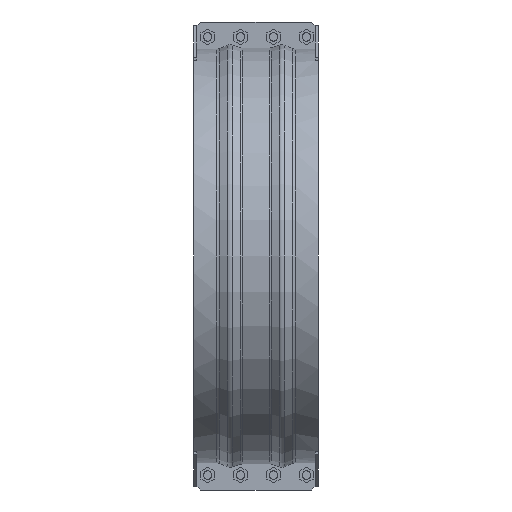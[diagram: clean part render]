
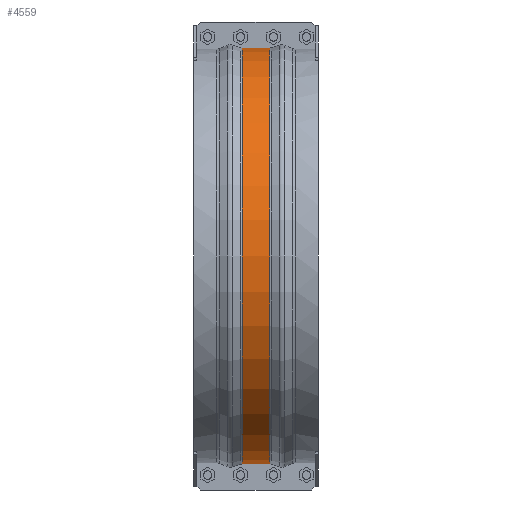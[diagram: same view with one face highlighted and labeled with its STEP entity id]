
A CAD part, front view. The second image highlights one B-rep face of the part: STEP entity #4559.
In plain terms, the highlighted cylindrical face has radius 625.777 mm (diameter 1251.55 mm), a partial arc.
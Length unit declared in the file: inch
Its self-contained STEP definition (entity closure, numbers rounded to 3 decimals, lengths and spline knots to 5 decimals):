
#414=FACE_OUTER_BOUND('',#671,.T.);
#671=EDGE_LOOP('',(#3465,#3466,#3467,#3468));
#1036=LINE('',#7017,#1485);
#1044=LINE('',#7149,#1493);
#1485=VECTOR('',#5630,0.3937);
#1493=VECTOR('',#5690,0.3937);
#1771=CIRCLE('',#4875,24.63689);
#1773=CIRCLE('',#4879,24.63689);
#2060=VERTEX_POINT('',#7009);
#2061=VERTEX_POINT('',#7016);
#2076=VERTEX_POINT('',#7134);
#2078=VERTEX_POINT('',#7147);
#2565=EDGE_CURVE('',#2061,#2060,#1036,.T.);
#2590=EDGE_CURVE('',#2076,#2061,#1771,.T.);
#2594=EDGE_CURVE('',#2078,#2060,#1773,.T.);
#2595=EDGE_CURVE('',#2078,#2076,#1044,.T.);
#3465=ORIENTED_EDGE('',*,*,#2565,.T.);
#3466=ORIENTED_EDGE('',*,*,#2594,.F.);
#3467=ORIENTED_EDGE('',*,*,#2595,.T.);
#3468=ORIENTED_EDGE('',*,*,#2590,.T.);
#4182=CYLINDRICAL_SURFACE('',#4878,24.63689);
#4559=ADVANCED_FACE('',(#414),#4182,.T.);
#4875=AXIS2_PLACEMENT_3D('',#7135,#5679,#5680);
#4878=AXIS2_PLACEMENT_3D('',#7146,#5686,#5687);
#4879=AXIS2_PLACEMENT_3D('',#7148,#5688,#5689);
#5630=DIRECTION('',(1.,0.,0.));
#5679=DIRECTION('center_axis',(1.,0.,0.));
#5680=DIRECTION('ref_axis',(0.,0.,-1.));
#5686=DIRECTION('center_axis',(1.,0.,0.));
#5687=DIRECTION('ref_axis',(0.,-1.,0.));
#5688=DIRECTION('center_axis',(1.,0.,0.));
#5689=DIRECTION('ref_axis',(0.,0.,-1.));
#5690=DIRECTION('',(-1.,0.,0.));
#7009=CARTESIAN_POINT('',(1.64101,-0.375,-24.63403));
#7016=CARTESIAN_POINT('',(-1.64101,-0.375,-24.63403));
#7017=CARTESIAN_POINT('',(0.,-0.375,-24.63403));
#7134=CARTESIAN_POINT('',(-1.64101,-0.375,24.63403));
#7135=CARTESIAN_POINT('Origin',(-1.64101,0.,0.));
#7146=CARTESIAN_POINT('Origin',(0.,0.,0.));
#7147=CARTESIAN_POINT('',(1.64101,-0.375,24.63403));
#7148=CARTESIAN_POINT('Origin',(1.64101,0.,0.));
#7149=CARTESIAN_POINT('',(0.,-0.375,24.63403));
